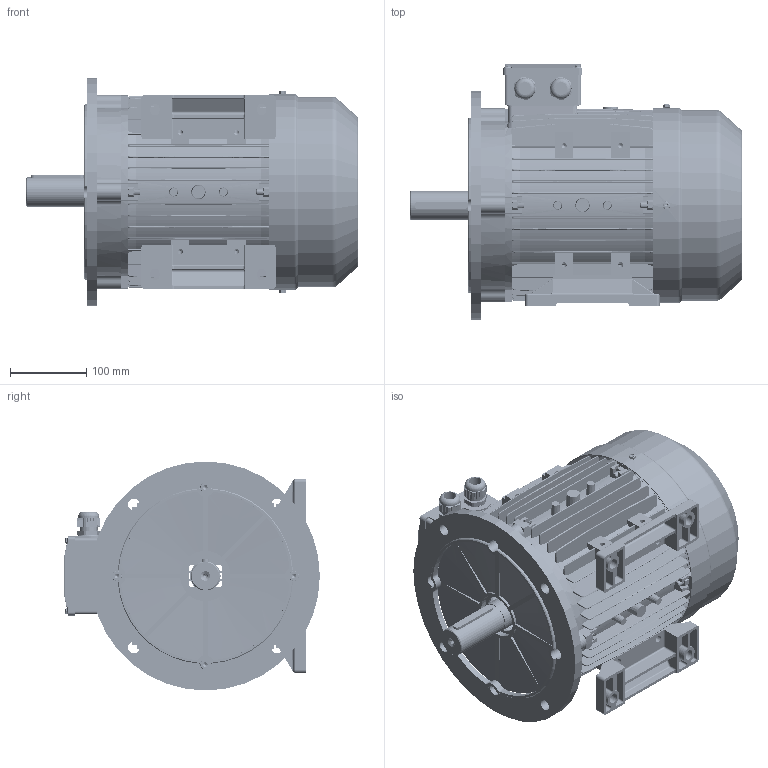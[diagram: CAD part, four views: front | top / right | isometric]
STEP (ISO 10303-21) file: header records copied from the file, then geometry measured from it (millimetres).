
FILE_DESCRIPTION (( 'STEP AP203' ), '1' );
FILE_NAME ('MSL132S assembly B35.STEP', '2017-11-26T10:23:40', ( 'user' ), ( 'china' ), 'SwSTEP 2.0', 'SolidWorks 2016', '' );
FILE_SCHEMA (( 'CONFIG_CONTROL_DESIGN' ));
Length unit declared in the file: millimetre
Products named in the file (17): MS132諉盄碟裔(苤); M132傷裔B5; M112-132諉盄碟(苤); M25 cable gland; MSL132S assembly B35; MS132諉盄碟釱(苤)_2Holes; GB-T 29.2-1988 M4鞠褒坋趼湍菜_05; M132菁褐(等謂)_S; M132瑞欶_117; M132儂褲_S; M132傷裔B3_NonDrive; M132-Shaft drive end_DNF; GB-T 41-2000 M8; GB-T 29.2-1988 M5鞠褒坋趼湍菜_10; GB-T 5780-2000 M8_040; MS132 綴裔瑞欶郪磁; GB-T 70.1-2000 M8_40
Assembly tree (36 placements, depth 3):
  MSL132S assembly B35
    M132儂褲_S
    M132-Shaft drive end_DNF
    M132菁褐(等謂)_S  x2
    MS132 綴裔瑞欶郪磁
      M132傷裔B3_NonDrive
      M132瑞欶_117
      GB-T 29.2-1988 M5鞠褒坋趼湍菜_10  x3
    GB-T 41-2000 M8  x8
    GB-T 70.1-2000 M8_40  x4
    M132傷裔B5
    M112-132諉盄碟(苤)
      MS132諉盄碟釱(苤)_2Holes
      MS132諉盄碟裔(苤)
      GB-T 29.2-1988 M4鞠褒坋趼湍菜_05  x4
      M25 cable gland  x2
    GB-T 5780-2000 M8_040  x4
Bounding box: 435 x 335 x 300 mm (x, y, z)
Volume: 2900652.4 mm3; surface area: 1446418.8 mm2
Topology: 36 solids, 36 shells, 5777 faces, 15223 edges, 9545 vertices
Faces by surface type: plane 2409, cylinder 1524, cone 1108, bspline 596, torus 128, sphere 12
Entity records: 163099 total; most frequent: CARTESIAN_POINT 64231, ORIENTED_EDGE 21512, DIRECTION 18143, EDGE_CURVE 10756, VERTEX_POINT 6877, LINE 6135, VECTOR 6135, AXIS2_PLACEMENT_3D 6004
